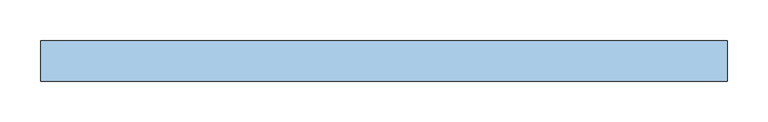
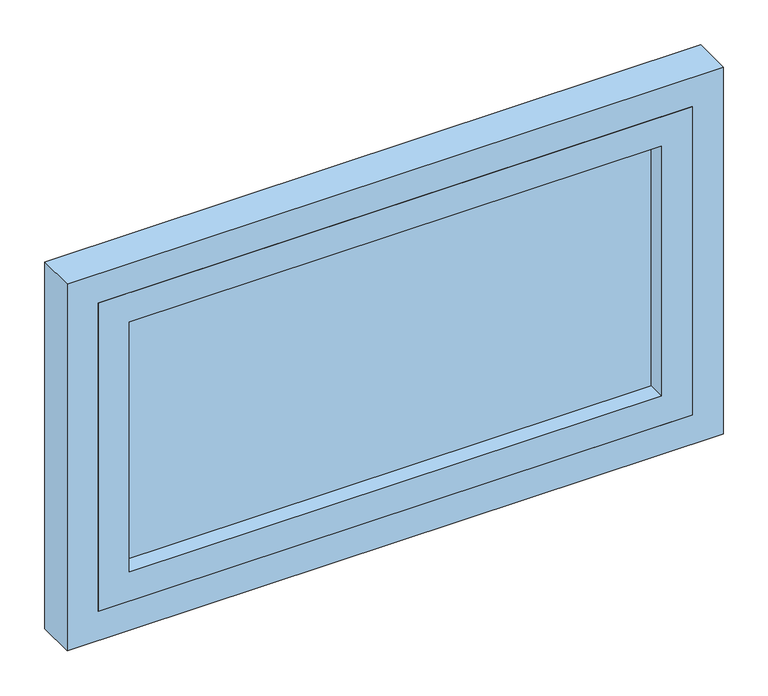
"""IFC4 building model written with IfcOpenShell, lengths in millimetres: window geometry, VENT_ALUM_PROY : VD-6 / PROY BAÑO 0.79 X 0.5."""

from ifc_helpers import new_model, si_unit, frame, origin, place, context, project, spatial, polyline, outline, extrude, source, transform, mapped, element, save


def window_67375b5f(model_context):
    return source(origin(), model_context, "Body", "SweptSolid", [
        extrude(outline(polyline([(840.0, -382.5), (840.0, 382.5), (1260.0, 382.5), (1260.0, -382.5), (840.0, -382.5)]), holes=[polyline([(1220.0, -342.5), (1220.0, 342.5), (880.0, 342.5), (880.0, -342.5), (1220.0, -342.5)])]), frame((0.0, -25.0, 0.0), z_axis=(0.0, 1.0, 0.0), x_axis=(0.0, 0.0, 1.0)), (0.0, 0.0, 1.0), 50.0),
        extrude(outline(polyline([(342.5, -3.0), (-342.5, -3.0), (-342.5, 3.0), (342.5, 3.0), (342.5, -3.0)])), frame((0.0, 0.0, 880.0), z_axis=(0.0, 0.0, 1.0), x_axis=(1.0, 0.0, 0.0)), (0.0, 0.0, 1.0), 340.0),
        extrude(outline(polyline([(800.0, -422.5), (800.0, 422.5), (1300.0, 422.5), (1300.0, -422.5), (800.0, -422.5)]), holes=[polyline([(1260.0, -382.5), (1260.0, 382.5), (840.0, 382.5), (840.0, -382.5), (1260.0, -382.5)])]), frame((0.0, -25.0, 0.0), z_axis=(0.0, 1.0, 0.0), x_axis=(0.0, 0.0, 1.0)), (0.0, 0.0, 1.0), 50.0),
    ])


if __name__ == "__main__":
    model = new_model("IFC4")
    model_context = context("Model", 3, world=origin())
    ifc_project = project(units=[si_unit("LENGTHUNIT", "METRE", prefix="MILLI")], contexts=[model_context])
    site = spatial("IfcSite", under=ifc_project)
    building = spatial("IfcBuilding", under=site)
    placement = place(None, origin())
    window_shape = window_67375b5f(model_context)
    element("IfcWindow", 1, ObjectType="VENT_ALUM_PROY : VD-6 / PROY BAÑO 0.79 X 0.5", at=placement, inside=building, context=model_context, shape_type="MappedRepresentation", body=[
        mapped(window_shape, transform((0.0, 0.0, 0.0), x_axis=(1.0, 0.0, 0.0), y_axis=(0.0, 1.0, 0.0), z_axis=(0.0, 0.0, 1.0))),
    ])
    save(model, "model.ifc")
